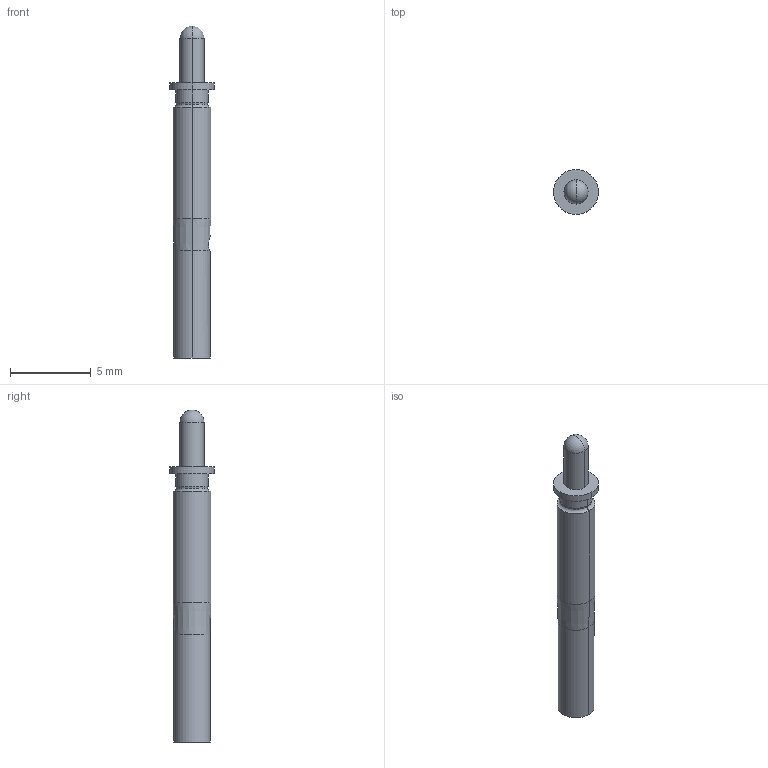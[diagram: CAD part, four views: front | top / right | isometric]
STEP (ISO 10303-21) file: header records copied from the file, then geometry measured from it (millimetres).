
FILE_DESCRIPTION (( 'STEP AP214' ), '1' );
FILE_NAME ('PD7JS.STEP', '2025-02-20T13:01:55', ( '' ), ( '' ), 'SwSTEP 2.0', 'SolidWorks 2024', '' );
FILE_SCHEMA (( 'AUTOMOTIVE_DESIGN' ));
Length unit declared in the file: millimetre
Products named in the file (1): PD7JS
Bounding box: 2.79 x 2.79 x 20.62 mm (x, y, z)
Volume: 69.9 mm3; surface area: 168.8 mm2
Topology: 1 solids, 1 shells, 30 faces, 67 edges, 38 vertices
Faces by surface type: cylinder 14, cone 6, torus 4, plane 4, sphere 2
Entity records: 1159 total; most frequent: DIRECTION 156, CARTESIAN_POINT 152, ORIENTED_EDGE 122, AXIS2_PLACEMENT_3D 68, EDGE_CURVE 61, CIRCLE 37, VERTEX_POINT 36, EDGE_LOOP 33
